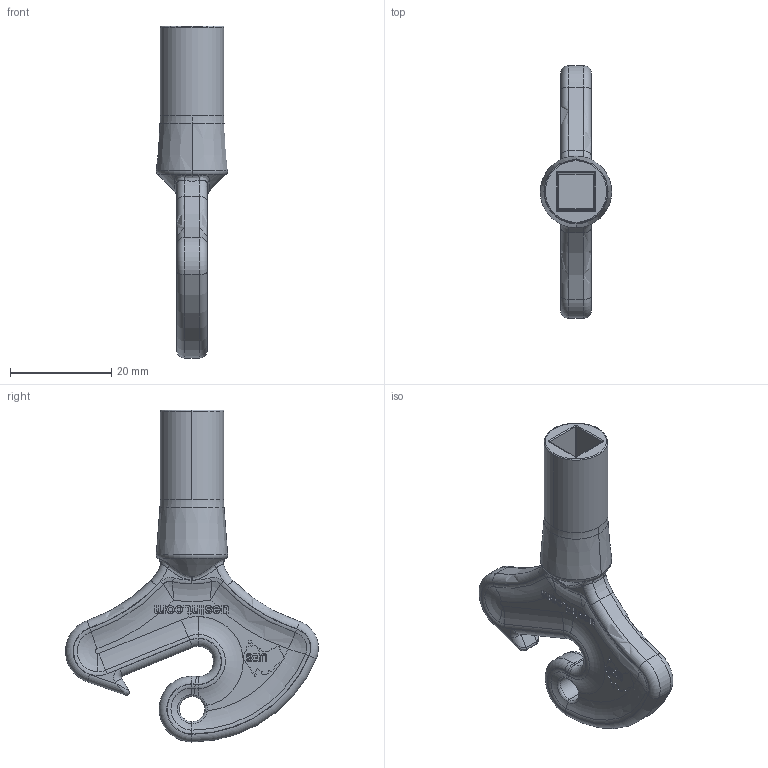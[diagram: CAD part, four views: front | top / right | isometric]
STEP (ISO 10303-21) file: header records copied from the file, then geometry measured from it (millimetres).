
FILE_DESCRIPTION (( 'STEP AP214' ), '1' );
FILE_NAME ('E3K7S.STEP', '2020-11-02T23:41:19', ( '' ), ( '' ), 'SwSTEP 2.0', 'SolidWorks 2018', '' );
FILE_SCHEMA (( 'AUTOMOTIVE_DESIGN' ));
Length unit declared in the file: millimetre
Products named in the file (1): E3K7S
Bounding box: 14.11 x 49.97 x 65.6 mm (x, y, z)
Volume: 8310.3 mm3; surface area: 4546.5 mm2
Topology: 1 solids, 1 shells, 429 faces, 1137 edges, 711 vertices
Faces by surface type: plane 179, bspline 127, torus 79, cylinder 40, cone 4
Entity records: 19619 total; most frequent: CARTESIAN_POINT 9865, ORIENTED_EDGE 2250, DIRECTION 1675, EDGE_CURVE 1125, VERTEX_POINT 711, VECTOR 579, LINE 579, AXIS2_PLACEMENT_3D 548
